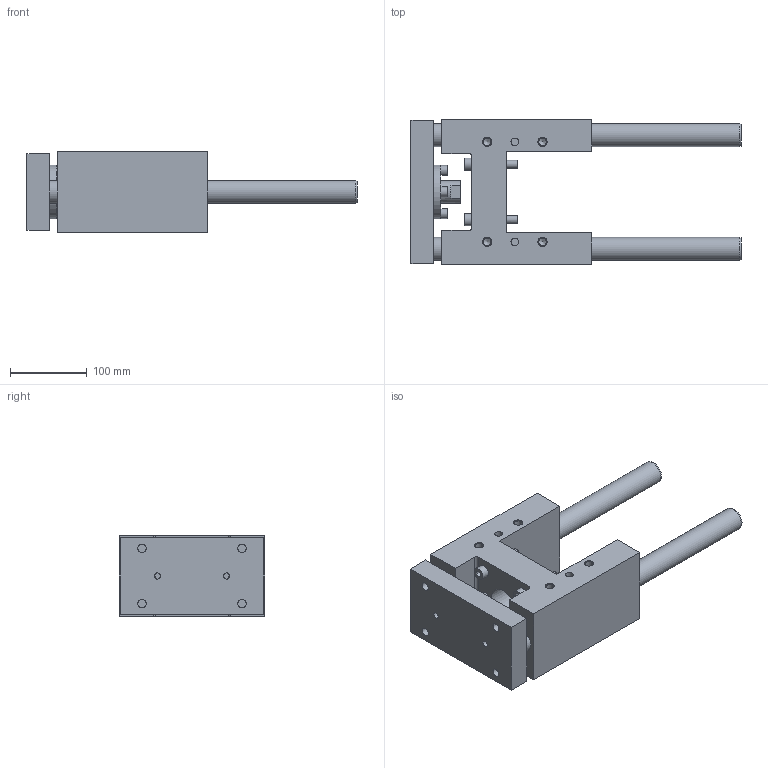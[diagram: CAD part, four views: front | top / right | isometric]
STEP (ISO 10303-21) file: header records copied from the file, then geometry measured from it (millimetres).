
FILE_DESCRIPTION( ( 'STEP AP214' ), '1' );
FILE_NAME( 'U:/Etudes/Top Solid/BIBLIO 3D AVM/TOP/PNEUMATIQUE/GUIDAGES/Type 32 (en H)/R_Renforcée/328R3130.step', '2005-05-27T09:10:40', ( ' ' ), ( ' ' ), 'XStep 1.0', ' ', ' ' );
FILE_SCHEMA( ( 'automotive_design' ) );
Length unit declared in the file: metre
Products named in the file (2): 1; 2
Bounding box: 429 x 189 x 105 mm (x, y, z)
Volume: 2999693.9 mm3; surface area: 361816.4 mm2
Topology: 2 solids, 7 shells, 209 faces, 472 edges, 313 vertices
Faces by surface type: plane 118, cylinder 70, cone 21
Full cylindrical faces by diameter (mm): 8 x10, 8.5 x4, 10 x10, 10.106 x12, 11 x8, 13 x4, 16 x4, 18 x4, 18.376 x2, 29 x1, 30 x4, 32 x1, 42 x1, 45 x2, 70 x1
Entity records: 7075 total; most frequent: CARTESIAN_POINT 1101, DIRECTION 894, ORIENTED_EDGE 690, EDGE_LOOP 362, AXIS2_PLACEMENT_3D 346, EDGE_CURVE 345, VERTEX_POINT 281, FACE_OUTER_BOUND 277
